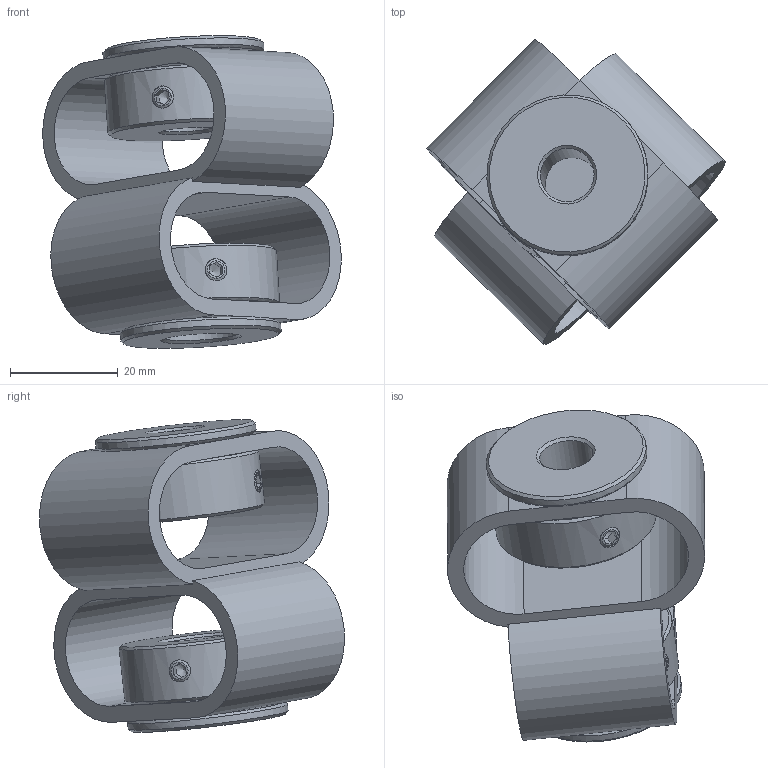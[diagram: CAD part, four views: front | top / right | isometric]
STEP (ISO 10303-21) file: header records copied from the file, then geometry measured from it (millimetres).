
FILE_DESCRIPTION(/* description */ (''),/* implementation_level */ '2;1');
FILE_NAME(/* name */ 'E:\ABP_bauteile\Doppelschlaufenkupplung\DKPS_5658\Doppelschlaufenkupplung_DKPS_5658_10_14.stp',/* time_stamp */ '2015-03-13T11:19:04+01:00',/* author */ ('Rob'),/* organization */ (''),/* preprocessor_version */ 'ST-DEVELOPER v15.6',/* originating_system */ 'Autodesk Inventor 2015',/* authorisation */ '');
FILE_SCHEMA (('CONFIG_CONTROL_DESIGN'));
Length unit declared in the file: millimetre
Products named in the file (1): Bauteil29
Bounding box: 55.53 x 56.74 x 58.16 mm (x, y, z)
Volume: 32797 mm3; surface area: 18148.8 mm2
Topology: 1 solids, 1 shells, 146 faces, 366 edges, 220 vertices
Faces by surface type: plane 84, cone 34, cylinder 28
Full cylindrical faces by diameter (mm): 4.134 x8, 10 x1, 14 x1, 21.5 x2, 23 x4, 30 x4
Entity records: 4186 total; most frequent: CARTESIAN_POINT 1059, DIRECTION 662, ORIENTED_EDGE 568, EDGE_CURVE 284, AXIS2_PLACEMENT_3D 265, EDGE_LOOP 214, VERTEX_POINT 184, FACE_OUTER_BOUND 146
